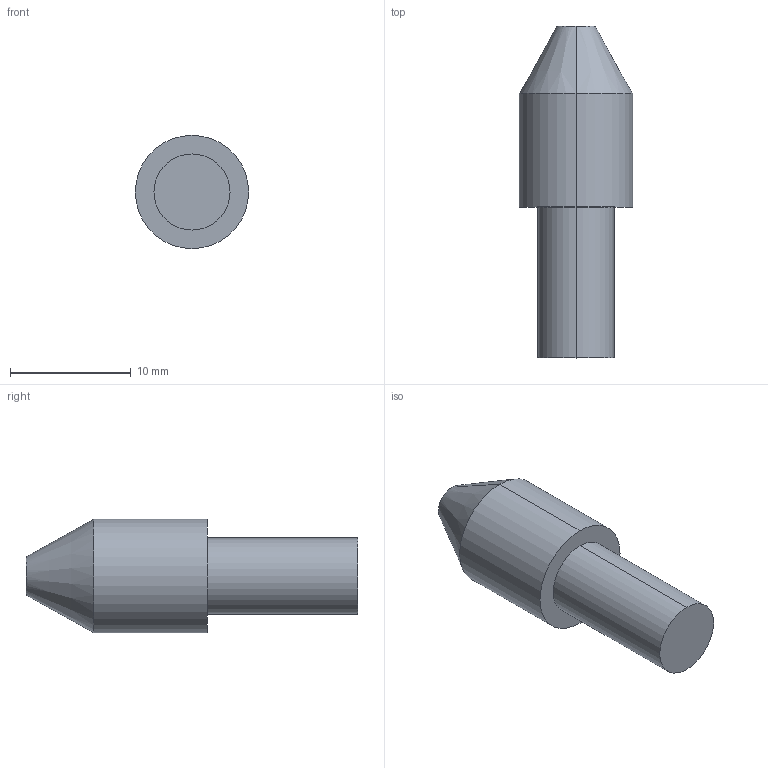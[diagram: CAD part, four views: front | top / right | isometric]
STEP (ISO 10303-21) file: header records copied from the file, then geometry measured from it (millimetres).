
FILE_DESCRIPTION (( 'STEP AP203' ), '1' );
FILE_NAME ('FA60PS04.STEP', '2020-11-27T05:55:36', ( '' ), ( '' ), 'SwSTEP 2.0', 'SolidWorks 2018', '' );
FILE_SCHEMA (( 'CONFIG_CONTROL_DESIGN' ));
Length unit declared in the file: millimetre
Products named in the file (1): FA60PS04
Bounding box: 9.38 x 27.5 x 9.38 mm (x, y, z)
Volume: 1226.6 mm3; surface area: 727.7 mm2
Topology: 1 solids, 1 shells, 9 faces, 16 edges, 10 vertices
Faces by surface type: cylinder 4, plane 3, cone 2
Entity records: 301 total; most frequent: DIRECTION 46, CARTESIAN_POINT 36, ORIENTED_EDGE 32, AXIS2_PLACEMENT_3D 20, EDGE_CURVE 16, CIRCLE 10, VERTEX_POINT 10, EDGE_LOOP 10
